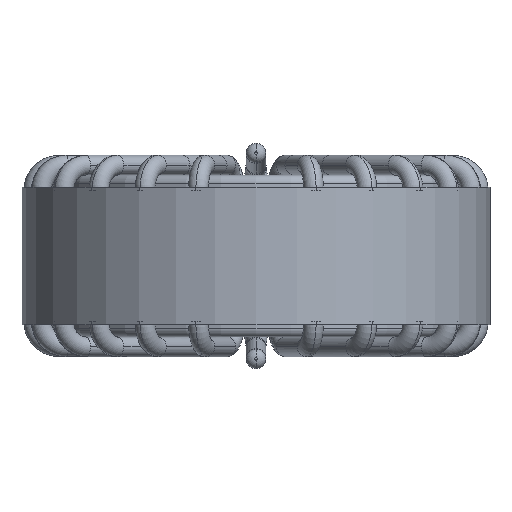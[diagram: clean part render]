
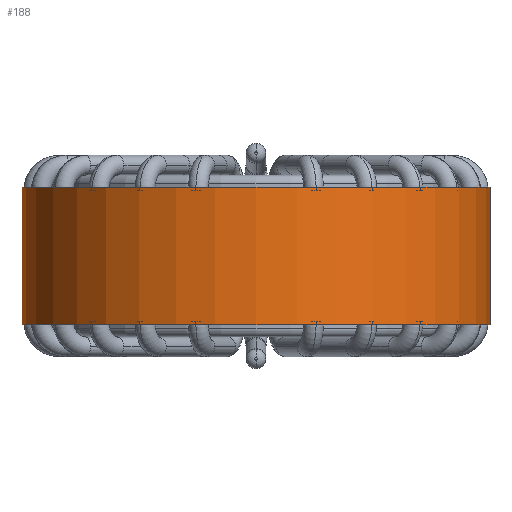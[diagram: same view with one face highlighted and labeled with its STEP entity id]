
A CAD part, front view. The second image highlights one B-rep face of the part: STEP entity #188.
In plain terms, the highlighted cylindrical face has radius 27.31 mm (diameter 54.62 mm), a partial arc.
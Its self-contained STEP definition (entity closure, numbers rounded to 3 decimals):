
#188 = ADVANCED_FACE ( 'NONE', ( #10698 ), #17596, .T. ) ;
#1475 = AXIS2_PLACEMENT_3D ( 'NONE', #26405, #1780, #10652 ) ;
#1780 = DIRECTION ( 'NONE',  ( 0., 0., 1. ) ) ;
#2344 = VERTEX_POINT ( 'NONE', #22356 ) ;
#3057 = CARTESIAN_POINT ( 'NONE',  ( 0., 0., 8. ) ) ;
#4485 = CARTESIAN_POINT ( 'NONE',  ( -27.31, 0., 8. ) ) ;
#6407 = LINE ( 'NONE', #26305, #28899 ) ;
#8141 = AXIS2_PLACEMENT_3D ( 'NONE', #3057, #31195, #12496 ) ;
#10652 = DIRECTION ( 'NONE',  ( 1., 0., 0. ) ) ;
#10698 = FACE_OUTER_BOUND ( 'NONE', #15143, .T. ) ;
#11766 = EDGE_CURVE ( 'NONE', #37622, #25453, #14036, .T. ) ;
#12496 = DIRECTION ( 'NONE',  ( -1., 0., 0. ) ) ;
#13875 = DIRECTION ( 'NONE',  ( 0., 0., -1. ) ) ;
#14036 = CIRCLE ( 'NONE', #1475, 27.31 ) ;
#14383 = EDGE_CURVE ( 'NONE', #25453, #2344, #6407, .T. ) ;
#14807 = DIRECTION ( 'NONE',  ( 0., 0., 1. ) ) ;
#15143 = EDGE_LOOP ( 'NONE', ( #31757, #23199, #39079, #29314 ) ) ;
#16151 = CARTESIAN_POINT ( 'NONE',  ( -27.31, 0., -8. ) ) ;
#17596 = CYLINDRICAL_SURFACE ( 'NONE', #8141, 27.31 ) ;
#20423 = CIRCLE ( 'NONE', #21102, 27.31 ) ;
#21076 = DIRECTION ( 'NONE',  ( 1., 0., 0. ) ) ;
#21102 = AXIS2_PLACEMENT_3D ( 'NONE', #24083, #14807, #21076 ) ;
#22356 = CARTESIAN_POINT ( 'NONE',  ( 27.31, 0., -8. ) ) ;
#23199 = ORIENTED_EDGE ( 'NONE', *, *, #11766, .F. ) ;
#24083 = CARTESIAN_POINT ( 'NONE',  ( 0., 0., -8. ) ) ;
#25453 = VERTEX_POINT ( 'NONE', #40256 ) ;
#26305 = CARTESIAN_POINT ( 'NONE',  ( 27.31, 0., 8. ) ) ;
#26405 = CARTESIAN_POINT ( 'NONE',  ( 0., 0., 8. ) ) ;
#27705 = VERTEX_POINT ( 'NONE', #16151 ) ;
#28899 = VECTOR ( 'NONE', #13875, 1000. ) ;
#29219 = EDGE_CURVE ( 'NONE', #37622, #27705, #37992, .T. ) ;
#29314 = ORIENTED_EDGE ( 'NONE', *, *, #33808, .T. ) ;
#31195 = DIRECTION ( 'NONE',  ( 0., 0., -1. ) ) ;
#31757 = ORIENTED_EDGE ( 'NONE', *, *, #14383, .F. ) ;
#31962 = DIRECTION ( 'NONE',  ( 0., 0., -1. ) ) ;
#33808 = EDGE_CURVE ( 'NONE', #27705, #2344, #20423, .T. ) ;
#34005 = VECTOR ( 'NONE', #31962, 1000. ) ;
#36558 = CARTESIAN_POINT ( 'NONE',  ( -27.31, 0., 8. ) ) ;
#37622 = VERTEX_POINT ( 'NONE', #36558 ) ;
#37992 = LINE ( 'NONE', #4485, #34005 ) ;
#39079 = ORIENTED_EDGE ( 'NONE', *, *, #29219, .T. ) ;
#40256 = CARTESIAN_POINT ( 'NONE',  ( 27.31, 0., 8. ) ) ;
